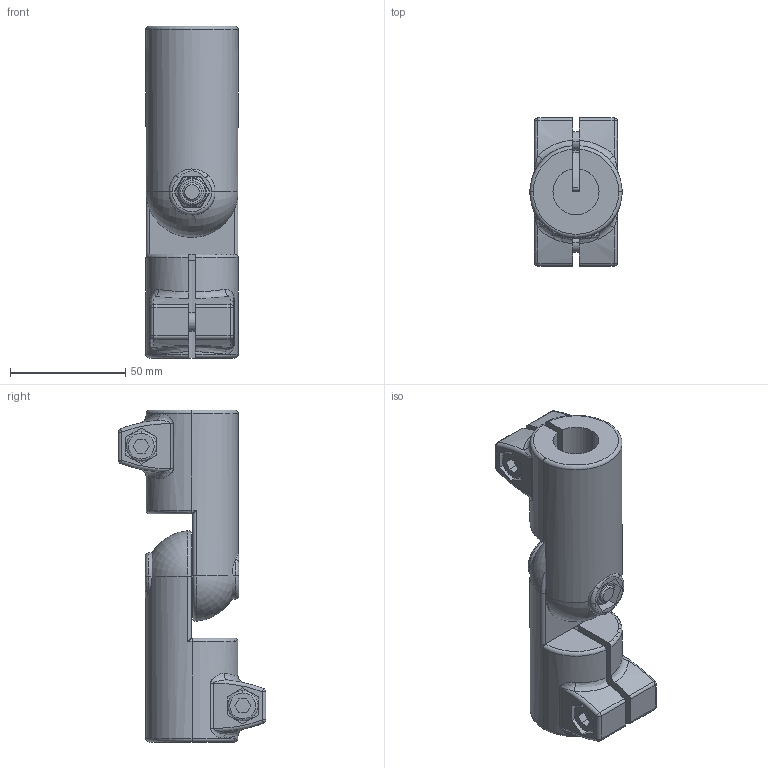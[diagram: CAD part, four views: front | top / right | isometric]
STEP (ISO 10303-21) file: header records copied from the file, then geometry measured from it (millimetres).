
FILE_DESCRIPTION (( 'STEP AP214' ), '1' );
FILE_NAME ('286-B20-B20-S-2-SW.step', '2021-12-02T12:15:48', ( '' ), ( '' ), 'SwSTEP 2.0', 'SolidWorks 2019', '' );
FILE_SCHEMA (( 'AUTOMOTIVE_DESIGN' ));
Length unit declared in the file: millimetre
Products named in the file (3): 286-B20-B20-S-2-SW; WB276_1^WB286_B20-MZ-2-SW; WB276^WB286_B20-IV-2-SW
Assembly tree (2 placements, depth 2):
  286-B20-B20-S-2-SW
    WB276^WB286_B20-IV-2-SW
    WB276_1^WB286_B20-MZ-2-SW
Bounding box: 40 x 64 x 144 mm (x, y, z)
Volume: 148737.6 mm3; surface area: 42573.1 mm2
Topology: 2 solids, 2 shells, 419 faces, 1016 edges, 622 vertices
Faces by surface type: plane 209, cylinder 108, torus 50, cone 24, bspline 20, sphere 8
Entity records: 15928 total; most frequent: CARTESIAN_POINT 5028, ORIENTED_EDGE 2016, DIRECTION 1968, EDGE_CURVE 1008, AXIS2_PLACEMENT_3D 764, VERTEX_POINT 622, EDGE_LOOP 454, LINE 440
